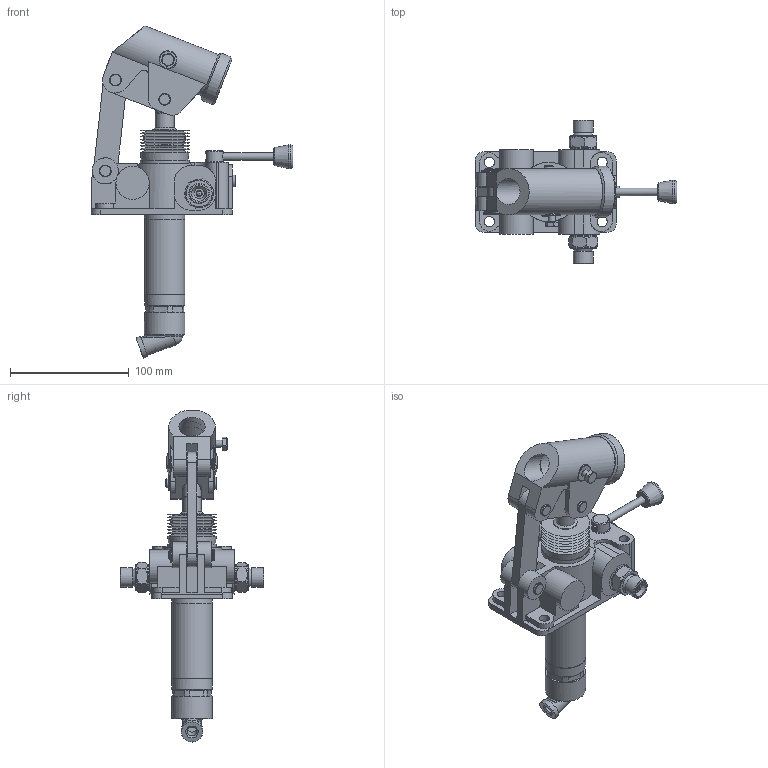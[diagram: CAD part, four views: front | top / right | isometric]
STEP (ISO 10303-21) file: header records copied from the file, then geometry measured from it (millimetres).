
FILE_DESCRIPTION(/* description */ ('Unknown'),/* implementation_level */ '2;1');
FILE_NAME(/* name */ 'HPTDVB-VS',/* time_stamp */ '2024-11-28T14:06:03+01:00',/* author */ ('Unknown'),/* organization */ ('Unknown'),/* preprocessor_version */ 'ST-DEVELOPER v19.4',/* originating_system */ 'Solid Edge',/* authorisation */ 'Unknown');
FILE_SCHEMA (('AUTOMOTIVE_DESIGN {1 0 10303 214 3 1 1}'));
Length unit declared in the file: millimetre
Products named in the file (1): HPTDVB-VS
Bounding box: 170 x 121 x 279.41 mm (x, y, z)
Volume: 511458.6 mm3; surface area: 137546.5 mm2
Topology: 7 solids, 7 shells, 2346 faces, 6474 edges, 4184 vertices
Faces by surface type: plane 1871, cylinder 297, cone 106, torus 41, bspline 21, sphere 10
Full cylindrical faces by diameter (mm): 3 x4, 3.5 x4, 4 x2, 5 x5, 5.1 x2, 5.994 x5, 6.2 x1, 7.792 x6, 8 x9, 8.042 x2, 8.092 x4, 8.1 x1, 8.376 x2, 8.4 x1, 8.5 x4, 8.566 x13, 9 x2, 9.99 x3, 10 x4, 11 x3, 11.6 x1, 14 x1, 15 x1, 15.3 x1, 15.8 x1, 16 x4, 16.662 x2, 17 x2, 18 x1, 19 x2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
Entity records: 94383 total; most frequent: CARTESIAN_POINT 20201, ORIENTED_EDGE 12088, DIRECTION 11498, EDGE_CURVE 6044, LINE 4818, VECTOR 4818, VERTEX_POINT 4016, AXIS2_PLACEMENT_3D 3340
